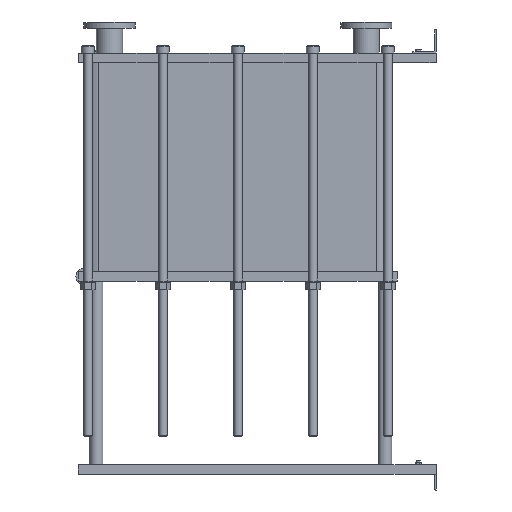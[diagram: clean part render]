
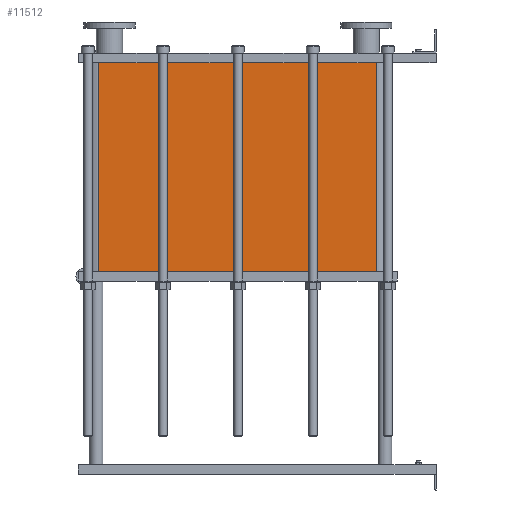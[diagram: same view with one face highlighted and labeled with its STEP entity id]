
A CAD part, left-side view. The second image highlights one B-rep face of the part: STEP entity #11512.
In plain terms, the highlighted planar face has unit normal (-1, 0, 0).
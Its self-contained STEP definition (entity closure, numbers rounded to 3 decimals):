
#1129=LINE('',#23232,#2102);
#1130=LINE('',#23236,#2103);
#1131=LINE('',#23238,#2104);
#1132=LINE('',#23239,#2105);
#2102=VECTOR('',#15887,10.);
#2103=VECTOR('',#15892,10.);
#2104=VECTOR('',#15893,10.);
#2105=VECTOR('',#15894,10.);
#3267=FACE_OUTER_BOUND('',#4093,.T.);
#4093=EDGE_LOOP('',(#10103,#10104,#10105,#10106));
#5642=VERTEX_POINT('',#23229);
#5643=VERTEX_POINT('',#23231);
#5644=VERTEX_POINT('',#23235);
#5645=VERTEX_POINT('',#23237);
#7159=EDGE_CURVE('',#5643,#5642,#1129,.T.);
#7161=EDGE_CURVE('',#5642,#5644,#1130,.T.);
#7162=EDGE_CURVE('',#5645,#5644,#1131,.T.);
#7163=EDGE_CURVE('',#5645,#5643,#1132,.T.);
#10103=ORIENTED_EDGE('',*,*,#7161,.T.);
#10104=ORIENTED_EDGE('',*,*,#7162,.F.);
#10105=ORIENTED_EDGE('',*,*,#7163,.T.);
#10106=ORIENTED_EDGE('',*,*,#7159,.T.);
#10857=PLANE('',#12751);
#11512=ADVANCED_FACE('',(#3267),#10857,.T.);
#12751=AXIS2_PLACEMENT_3D('',#23234,#15890,#15891);
#15887=DIRECTION('',(0.,0.,-1.));
#15890=DIRECTION('center_axis',(-1.,0.,0.));
#15891=DIRECTION('ref_axis',(0.,1.,0.));
#15892=DIRECTION('',(0.,-1.,0.));
#15893=DIRECTION('',(0.,0.,-1.));
#15894=DIRECTION('',(0.,1.,0.));
#23229=CARTESIAN_POINT('',(-200.,1414.,-876.3));
#23231=CARTESIAN_POINT('',(-200.,1414.,0.));
#23232=CARTESIAN_POINT('',(-200.,1414.,0.));
#23234=CARTESIAN_POINT('Origin',(-200.,248.,0.));
#23235=CARTESIAN_POINT('',(-200.,248.,-876.3));
#23236=CARTESIAN_POINT('',(-200.,539.5,-876.3));
#23237=CARTESIAN_POINT('',(-200.,248.,0.));
#23238=CARTESIAN_POINT('',(-200.,248.,0.));
#23239=CARTESIAN_POINT('',(-200.,248.,0.));
